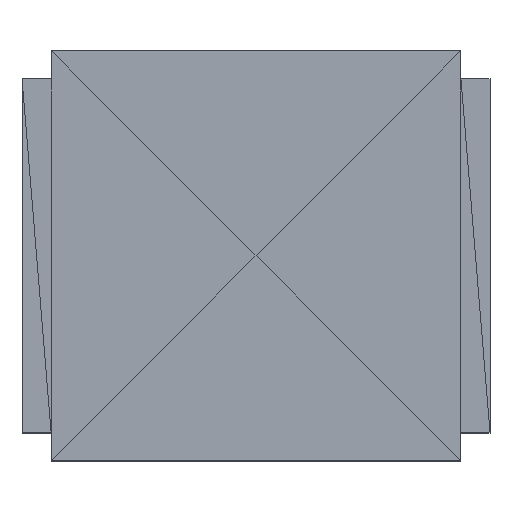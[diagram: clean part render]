
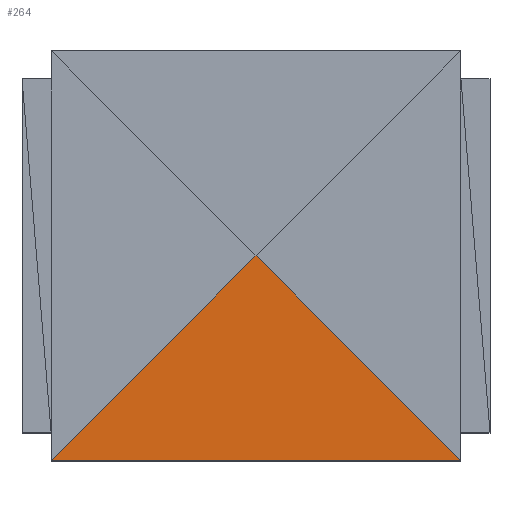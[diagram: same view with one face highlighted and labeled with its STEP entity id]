
A CAD part, top view. The second image highlights one B-rep face of the part: STEP entity #264.
In plain terms, the highlighted planar face has unit normal (0, 0, 1).
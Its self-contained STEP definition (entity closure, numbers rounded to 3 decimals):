
#264=ADVANCED_FACE('',(#265),#291,.F.);
#265=FACE_OUTER_BOUND('',#266,.T.);
#266=EDGE_LOOP('',(#267,#269,#271));
#267=ORIENTED_EDGE('',*,*,#268,.T.);
#268=EDGE_CURVE('',#273,#275,#277,.T.);
#269=ORIENTED_EDGE('',*,*,#270,.T.);
#270=EDGE_CURVE('',#275,#281,#283,.T.);
#271=ORIENTED_EDGE('',*,*,#272,.T.);
#272=EDGE_CURVE('',#281,#273,#287,.T.);
#273=VERTEX_POINT('',#274);
#274=CARTESIAN_POINT('',(0.0,0.0,2.413));
#275=VERTEX_POINT('',#276);
#276=CARTESIAN_POINT('',(2.146,-2.146,2.413));
#277=LINE('',#278,#279);
#278=CARTESIAN_POINT('',(0.0,0.0,2.413));
#279=VECTOR('',#280,1.0);
#280=DIRECTION('',(-0.707,0.707,0.0));
#281=VERTEX_POINT('',#282);
#282=CARTESIAN_POINT('',(-2.146,-2.146,2.413));
#283=LINE('',#284,#285);
#284=CARTESIAN_POINT('',(2.146,-2.146,2.413));
#285=VECTOR('',#286,1.0);
#286=DIRECTION('',(1.0,0.0,0.0));
#287=LINE('',#288,#289);
#288=CARTESIAN_POINT('',(-2.146,-2.146,2.413));
#289=VECTOR('',#290,1.0);
#290=DIRECTION('',(-0.707,-0.707,0.0));
#291=PLANE('',#292);
#292=AXIS2_PLACEMENT_3D('',#293,#294,#295);
#293=CARTESIAN_POINT('',(2.146,-2.146,2.413));
#294=DIRECTION('',(0.0,0.0,-1.0));
#295=DIRECTION('',(0.707,0.707,0.0));
